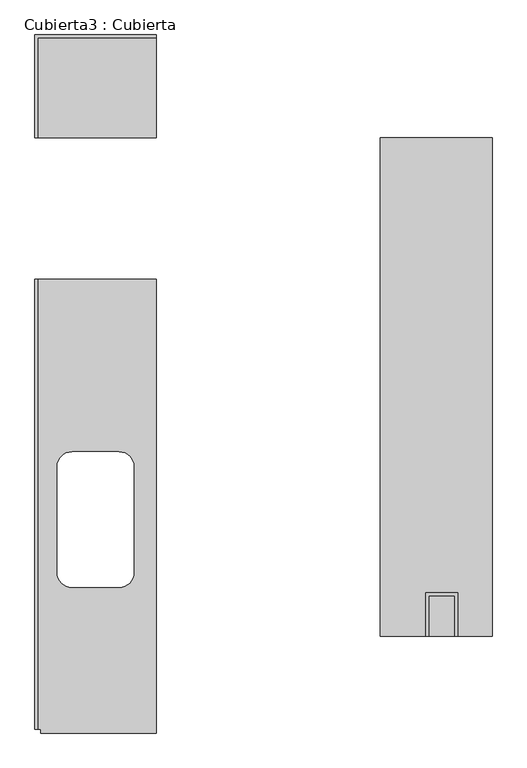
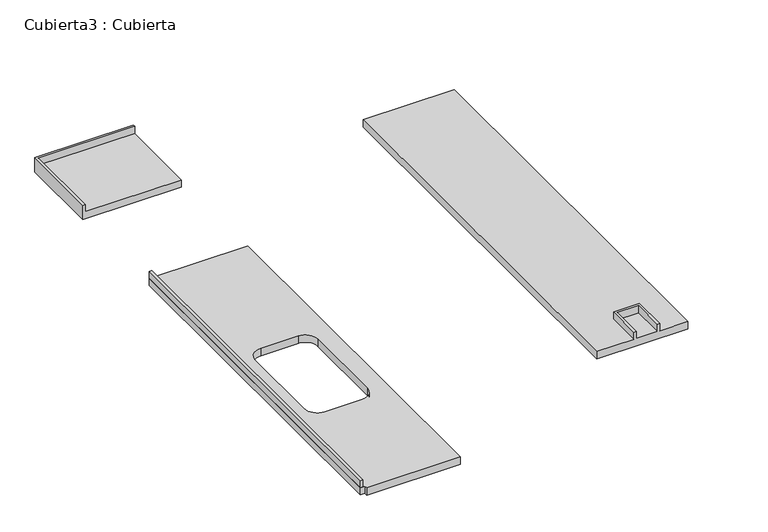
"""IFC4 building model written with IfcOpenShell, lengths in millimetres: furniture geometry, Cubierta3 : Cubierta."""

from ifc_helpers import new_model, si_unit, frame, origin, place, context, project, spatial, polyline, circle_curve, outline, extrude, faceted_brep, source, transform, mapped, element, save
from ifc_brep_helpers import plane_surface, revolved_surface, advanced_brep


def cubierta3_cubierta_942fcd4e(model_context):
    return source(origin(), model_context, "Body", "SolidModel", [
        extrude(outline(polyline([(34143.8589874, 27964.010184), (34158.8589874, 27964.010184), (34158.8589874, 25552.4819737), (34143.8589874, 25552.4819737), (34143.8589874, 27964.010184)])), frame((0.0, 0.0, 6900.0), z_axis=(0.0, 0.0, 1.0), x_axis=(1.0, 0.0, 0.0)), (0.0, 0.0, 1.0), 50.0),
        faceted_brep([(35993.8589874, 28724.010184, 6900.0), (35993.8589874, 26052.4819336, 6900.0), (36239.5300226, 26052.4819336, 6900.0), (36239.5300226, 26284.0176189, 6900.0), (36409.5300226, 26284.0176189, 6900.0), (36409.5300226, 26052.4819336, 6900.0), (36593.8589508, 26052.4819336, 6900.0), (36593.8589508, 28724.010184, 6900.0), (36254.5300226, 26052.4819336, 6900.0), (36394.5300226, 26052.4819336, 6900.0), (36394.5300226, 26269.0176189, 6900.0), (36254.5300226, 26269.0176189, 6900.0), (35993.8589874, 28724.010184, 6850.0), (36593.8589508, 28724.010184, 6850.0), (36593.8589508, 26052.4819336, 6850.0), (35993.8589874, 26052.4819336, 6850.0), (36254.5300226, 26052.4819336, 6950.0), (36239.5300226, 26052.4819336, 6950.0), (36409.5300226, 26052.4819336, 6950.0), (36394.5300226, 26052.4819336, 6950.0), (36254.5300226, 26269.0176189, 6950.0), (36394.5300226, 26269.0176189, 6950.0), (36409.5300226, 26284.0176189, 6950.0), (36239.5300226, 26284.0176189, 6950.0)], [[[0, 1, 2, 3, 4, 5, 6, 7]], [[8, 9, 10, 11]], [[12, 13, 14, 15]], [[1, 0, 12, 15]], [[7, 6, 14, 13]], [[0, 7, 13, 12]], [[16, 17, 2, 1, 15, 14, 6, 5, 18, 19, 9, 8]], [[17, 16, 20, 21, 19, 18, 22, 23]], [[2, 17, 23, 3]], [[16, 8, 11, 20]], [[23, 22, 4, 3]], [[21, 20, 11, 10]], [[18, 5, 4, 22]], [[9, 19, 21, 10]]]),
        advanced_brep(
        [(34793.8589874, 25532.4819737, 6900.0), (34793.8589874, 27964.010184, 6900.0), (34143.8589874, 27964.010184, 6900.0), (34143.8589874, 25552.4819737, 6900.0), (34173.8589874, 25552.4819737, 6900.0), (34173.8589874, 25532.4819737, 6900.0), (34262.8589874, 26959.010184, 6900.0), (34343.8589874, 27040.010184, 6900.0), (34593.8589874, 27040.010184, 6900.0), (34674.8589874, 26959.010184, 6900.0), (34674.8589874, 26394.010184, 6900.0), (34593.8589874, 26313.010184, 6900.0), (34343.8589874, 26313.010184, 6900.0), (34262.8589874, 26394.010184, 6900.0), (34793.8589874, 25532.4819737, 6850.0), (34173.8589874, 25532.4819737, 6850.0), (34173.8589874, 25552.4819737, 6850.0), (34143.8589874, 25552.4819737, 6850.0), (34143.8589874, 27964.010184, 6850.0), (34793.8589874, 27964.010184, 6850.0), (34262.8589874, 26959.010184, 6850.0), (34262.8589874, 26394.010184, 6850.0), (34343.8589874, 26313.010184, 6850.0), (34593.8589874, 26313.010184, 6850.0), (34674.8589874, 26394.010184, 6850.0), (34674.8589874, 26959.010184, 6850.0), (34593.8589874, 27040.010184, 6850.0), (34343.8589874, 27040.010184, 6850.0)],
        [
            (0, 1),
            (1, 2),
            (2, 3),
            (3, 4),
            (4, 5),
            (5, 0),
            (6, 7, circle_curve(frame((34343.8589874, 26959.010184, 6900.0), z_axis=(0.0, 0.0, -1.0), x_axis=(0.0, 1.0, 0.0)), 81.0)),
            (7, 8),
            (8, 9, circle_curve(frame((34593.8589874, 26959.010184, 6900.0), z_axis=(0.0, 0.0, -1.0), x_axis=(0.0, 1.0, 0.0)), 81.0)),
            (9, 10),
            (10, 11, circle_curve(frame((34593.8589874, 26394.010184, 6900.0), z_axis=(0.0, 0.0, -1.0), x_axis=(0.0, 1.0, 0.0)), 81.0)),
            (11, 12),
            (12, 13, circle_curve(frame((34343.8589874, 26394.010184, 6900.0), z_axis=(0.0, 0.0, -1.0), x_axis=(0.0, 1.0, 0.0)), 81.0)),
            (13, 6),
            (14, 15),
            (15, 16),
            (16, 17),
            (17, 18),
            (18, 19),
            (19, 14),
            (20, 21),
            (21, 22, circle_curve(frame((34343.8589874, 26394.010184, 6850.0), z_axis=(0.0, 0.0, 1.0), x_axis=(0.0, 1.0, 0.0)), 81.0)),
            (22, 23),
            (23, 24, circle_curve(frame((34593.8589874, 26394.010184, 6850.0), z_axis=(0.0, 0.0, 1.0), x_axis=(0.0, 1.0, 0.0)), 81.0)),
            (24, 25),
            (25, 26, circle_curve(frame((34593.8589874, 26959.010184, 6850.0), z_axis=(0.0, 0.0, 1.0), x_axis=(0.0, 1.0, 0.0)), 81.0)),
            (26, 27),
            (27, 20, circle_curve(frame((34343.8589874, 26959.010184, 6850.0), z_axis=(0.0, 0.0, 1.0), x_axis=(0.0, 1.0, 0.0)), 81.0)),
            (2, 18),
            (17, 3),
            (16, 4),
            (15, 5),
            (14, 0),
            (19, 1),
            (6, 20),
            (27, 7),
            (26, 8),
            (25, 9),
            (24, 10),
            (23, 11),
            (22, 12),
            (21, 13),
        ],
        [
            plane_surface(frame((35993.8589874, 27819.7057874, 6900.0), z_axis=(0.0, 0.0, 1.0), x_axis=(0.0, -1.0, 0.0))),
            plane_surface(frame((35993.8589874, 27819.7057874, 6850.0), z_axis=(0.0, 0.0, -1.0), x_axis=(0.0, 1.0, 0.0))),
            plane_surface(frame((34143.8589874, 27964.010184, 6900.0), z_axis=(-1.0, 0.0, 0.0), x_axis=(0.0, 0.0, -1.0))),
            plane_surface(frame((34143.8589874, 25552.4819737, 6900.0), z_axis=(0.0, -1.0, 0.0), x_axis=(0.0, 0.0, -1.0))),
            plane_surface(frame((34173.8589874, 25552.4819737, 6900.0), z_axis=(-1.0, 0.0, 0.0), x_axis=(0.0, 0.0, -1.0))),
            plane_surface(frame((34173.8589874, 25532.4819737, 6900.0), z_axis=(0.0, -1.0, 0.0), x_axis=(0.0, 0.0, -1.0))),
            plane_surface(frame((34793.8589874, 25532.4819737, 6900.0), z_axis=(1.0, 0.0, 0.0), x_axis=(0.0, 0.0, -1.0))),
            plane_surface(frame((34793.8589874, 27964.010184, 6900.0), z_axis=(0.0, 1.0, 0.0), x_axis=(0.0, 0.0, -1.0))),
            revolved_surface(polyline([(34343.8589874, 27040.010184, 6850.0), (34343.8589874, 27040.010184, 6900.0)]), (34343.8589874, 26959.010184, 6000.0), (0.0, 0.0, -1.0)),
            plane_surface(frame((34343.8589874, 27040.010184, 6900.0), z_axis=(0.0, -1.0, 0.0), x_axis=(0.0, 0.0, -1.0))),
            revolved_surface(polyline([(34593.8589874, 27040.010184, 6850.0), (34593.8589874, 27040.010184, 6900.0)]), (34593.8589874, 26959.010184, 6000.0), (0.0, 0.0, -1.0)),
            plane_surface(frame((34674.8589874, 26959.010184, 6900.0), z_axis=(-1.0, 0.0, 0.0), x_axis=(0.0, 0.0, -1.0))),
            revolved_surface(polyline([(34593.8589874, 26475.010184, 6850.0), (34593.8589874, 26475.010184, 6900.0)]), (34593.8589874, 26394.010184, 6000.0), (0.0, 0.0, -1.0)),
            plane_surface(frame((34593.8589874, 26313.010184, 6900.0), z_axis=(0.0, 1.0, 0.0), x_axis=(0.0, 0.0, -1.0))),
            revolved_surface(polyline([(34343.8589874, 26475.010184, 6850.0), (34343.8589874, 26475.010184, 6900.0)]), (34343.8589874, 26394.010184, 6000.0), (0.0, 0.0, -1.0)),
            plane_surface(frame((34262.8589874, 26394.010184, 6900.0), z_axis=(1.0, 0.0, 0.0), x_axis=(0.0, 0.0, -1.0))),
        ],
        [
            (0, [[1, 2, 3, 4, 5, 6], [7, 8, 9, 10, 11, 12, 13, 14]]),
            (1, [[15, 16, 17, 18, 19, 20], [21, 22, 23, 24, 25, 26, 27, 28]]),
            (2, [[-3, 29, -18, 30]]),
            (3, [[-4, -30, -17, 31]]),
            (4, [[-5, -31, -16, 32]]),
            (5, [[-6, -32, -15, 33]]),
            (6, [[-1, -33, -20, 34]]),
            (7, [[-2, -34, -19, -29]]),
            (8, [[-7, 35, -28, 36]]),
            (9, [[-8, -36, -27, 37]]),
            (10, [[-9, -37, -26, 38]]),
            (11, [[-10, -38, -25, 39]]),
            (12, [[-11, -39, -24, 40]]),
            (13, [[-12, -40, -23, 41]]),
            (14, [[-13, -41, -22, 42]]),
            (15, [[-14, -42, -21, -35]]),
        ],
    ),
        faceted_brep([(34158.8589874, 28724.010184, 6900.0), (34793.8589874, 28724.010184, 6900.0), (34793.8589874, 29259.010184, 6900.0), (34158.8589874, 29259.010184, 6900.0), (34793.8589874, 29274.010184, 6850.0), (34793.8589874, 28724.010184, 6850.0), (34143.8589874, 28724.010184, 6850.0), (34143.8589874, 29274.010184, 6850.0), (34143.8589874, 29274.010184, 6950.0), (34793.8589874, 29274.010184, 6950.0), (34793.8589874, 29259.010184, 6950.0), (34143.8589874, 28724.010184, 6950.0), (34158.8589874, 28724.010184, 6950.0), (34158.8589874, 29259.010184, 6950.0)], [[[0, 1, 2, 3]], [[4, 5, 6, 7]], [[4, 7, 8, 9]], [[10, 9, 8, 11, 12, 13]], [[2, 10, 13, 3]], [[12, 0, 3, 13]], [[11, 6, 5, 1, 0, 12]], [[5, 4, 9, 10, 2, 1]], [[8, 7, 6, 11]]]),
    ])


if __name__ == "__main__":
    model = new_model("IFC4")
    model_context = context("Model", 3, world=origin())
    ifc_project = project(units=[si_unit("LENGTHUNIT", "METRE", prefix="MILLI")], contexts=[model_context])
    site = spatial("IfcSite", under=ifc_project)
    building = spatial("IfcBuilding", under=site)
    placement = place(None, origin())
    cubierta3_cubierta_shape = cubierta3_cubierta_942fcd4e(model_context)
    element("IfcFurniture", 1, ObjectType="Cubierta3 : Cubierta", at=placement, inside=building, context=model_context, shape_type="MappedRepresentation", body=[
        mapped(cubierta3_cubierta_shape, transform((0.0, 0.0, 0.0), x_axis=(1.0, 0.0, 0.0), y_axis=(0.0, 1.0, 0.0), z_axis=(0.0, 0.0, 1.0))),
    ])
    save(model, "model.ifc")
